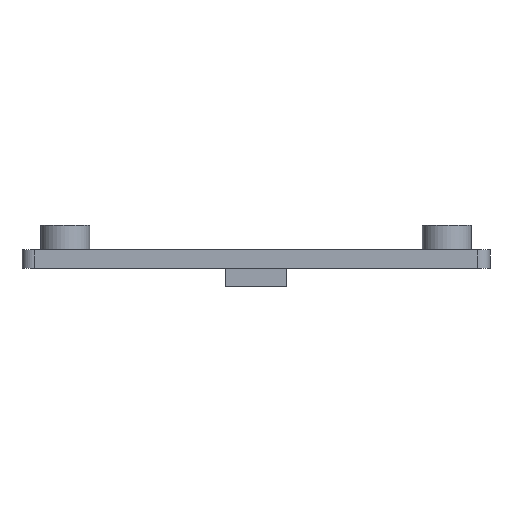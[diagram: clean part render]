
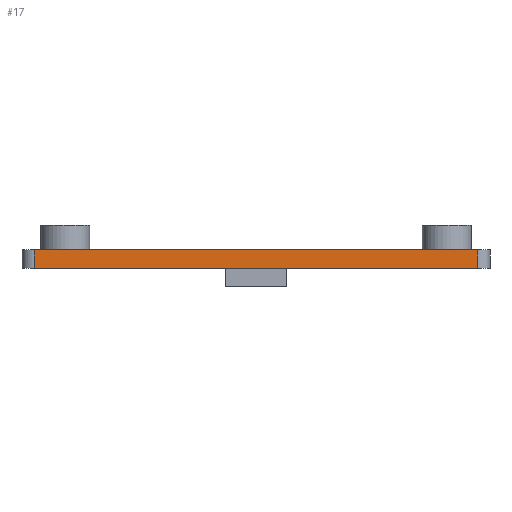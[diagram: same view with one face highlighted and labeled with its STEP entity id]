
A CAD part, left-side view. The second image highlights one B-rep face of the part: STEP entity #17.
In plain terms, the highlighted planar face has unit normal (-1, 0, 0).
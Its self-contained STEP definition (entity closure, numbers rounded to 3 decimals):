
#17 = ADVANCED_FACE('',(#18),#32,.F.);
#18 = FACE_BOUND('',#19,.F.);
#19 = EDGE_LOOP('',(#20,#55,#83,#111));
#20 = ORIENTED_EDGE('',*,*,#21,.F.);
#21 = EDGE_CURVE('',#22,#24,#26,.T.);
#22 = VERTEX_POINT('',#23);
#23 = CARTESIAN_POINT('',(-48.,-36.,3.));
#24 = VERTEX_POINT('',#25);
#25 = CARTESIAN_POINT('',(-48.,36.,3.));
#26 = SURFACE_CURVE('',#27,(#31,#43),.PCURVE_S1.);
#27 = LINE('',#28,#29);
#28 = CARTESIAN_POINT('',(-48.,-38.,3.));
#29 = VECTOR('',#30,1.);
#30 = DIRECTION('',(0.,1.,0.));
#31 = PCURVE('',#32,#37);
#32 = PLANE('',#33);
#33 = AXIS2_PLACEMENT_3D('',#34,#35,#36);
#34 = CARTESIAN_POINT('',(-48.,-38.,0.));
#35 = DIRECTION('',(1.,0.,0.));
#36 = DIRECTION('',(0.,0.,1.));
#37 = DEFINITIONAL_REPRESENTATION('',(#38),#42);
#38 = LINE('',#39,#40);
#39 = CARTESIAN_POINT('',(3.,0.));
#40 = VECTOR('',#41,1.);
#41 = DIRECTION('',(0.,-1.));
#42 = ( GEOMETRIC_REPRESENTATION_CONTEXT(2) 
PARAMETRIC_REPRESENTATION_CONTEXT() REPRESENTATION_CONTEXT('2D SPACE',''
  ) );
#43 = PCURVE('',#44,#49);
#44 = PLANE('',#45);
#45 = AXIS2_PLACEMENT_3D('',#46,#47,#48);
#46 = CARTESIAN_POINT('',(-48.,-38.,3.));
#47 = DIRECTION('',(0.,0.,1.));
#48 = DIRECTION('',(1.,0.,0.));
#49 = DEFINITIONAL_REPRESENTATION('',(#50),#54);
#50 = LINE('',#51,#52);
#51 = CARTESIAN_POINT('',(0.,0.));
#52 = VECTOR('',#53,1.);
#53 = DIRECTION('',(0.,1.));
#54 = ( GEOMETRIC_REPRESENTATION_CONTEXT(2) 
PARAMETRIC_REPRESENTATION_CONTEXT() REPRESENTATION_CONTEXT('2D SPACE',''
  ) );
#55 = ORIENTED_EDGE('',*,*,#56,.F.);
#56 = EDGE_CURVE('',#57,#22,#59,.T.);
#57 = VERTEX_POINT('',#58);
#58 = CARTESIAN_POINT('',(-48.,-36.,0.));
#59 = SURFACE_CURVE('',#60,(#64,#71),.PCURVE_S1.);
#60 = LINE('',#61,#62);
#61 = CARTESIAN_POINT('',(-48.,-36.,0.));
#62 = VECTOR('',#63,1.);
#63 = DIRECTION('',(0.,0.,1.));
#64 = PCURVE('',#32,#65);
#65 = DEFINITIONAL_REPRESENTATION('',(#66),#70);
#66 = LINE('',#67,#68);
#67 = CARTESIAN_POINT('',(0.,-2.));
#68 = VECTOR('',#69,1.);
#69 = DIRECTION('',(1.,0.));
#70 = ( GEOMETRIC_REPRESENTATION_CONTEXT(2) 
PARAMETRIC_REPRESENTATION_CONTEXT() REPRESENTATION_CONTEXT('2D SPACE',''
  ) );
#71 = PCURVE('',#72,#77);
#72 = CYLINDRICAL_SURFACE('',#73,2.);
#73 = AXIS2_PLACEMENT_3D('',#74,#75,#76);
#74 = CARTESIAN_POINT('',(-46.,-36.,0.));
#75 = DIRECTION('',(0.,0.,1.));
#76 = DIRECTION('',(-1.,-0.,0.));
#77 = DEFINITIONAL_REPRESENTATION('',(#78),#82);
#78 = LINE('',#79,#80);
#79 = CARTESIAN_POINT('',(0.,0.));
#80 = VECTOR('',#81,1.);
#81 = DIRECTION('',(0.,1.));
#82 = ( GEOMETRIC_REPRESENTATION_CONTEXT(2) 
PARAMETRIC_REPRESENTATION_CONTEXT() REPRESENTATION_CONTEXT('2D SPACE',''
  ) );
#83 = ORIENTED_EDGE('',*,*,#84,.T.);
#84 = EDGE_CURVE('',#57,#85,#87,.T.);
#85 = VERTEX_POINT('',#86);
#86 = CARTESIAN_POINT('',(-48.,36.,0.));
#87 = SURFACE_CURVE('',#88,(#92,#99),.PCURVE_S1.);
#88 = LINE('',#89,#90);
#89 = CARTESIAN_POINT('',(-48.,-38.,0.));
#90 = VECTOR('',#91,1.);
#91 = DIRECTION('',(0.,1.,0.));
#92 = PCURVE('',#32,#93);
#93 = DEFINITIONAL_REPRESENTATION('',(#94),#98);
#94 = LINE('',#95,#96);
#95 = CARTESIAN_POINT('',(0.,0.));
#96 = VECTOR('',#97,1.);
#97 = DIRECTION('',(0.,-1.));
#98 = ( GEOMETRIC_REPRESENTATION_CONTEXT(2) 
PARAMETRIC_REPRESENTATION_CONTEXT() REPRESENTATION_CONTEXT('2D SPACE',''
  ) );
#99 = PCURVE('',#100,#105);
#100 = PLANE('',#101);
#101 = AXIS2_PLACEMENT_3D('',#102,#103,#104);
#102 = CARTESIAN_POINT('',(-48.,-38.,0.));
#103 = DIRECTION('',(0.,0.,1.));
#104 = DIRECTION('',(1.,0.,0.));
#105 = DEFINITIONAL_REPRESENTATION('',(#106),#110);
#106 = LINE('',#107,#108);
#107 = CARTESIAN_POINT('',(0.,0.));
#108 = VECTOR('',#109,1.);
#109 = DIRECTION('',(0.,1.));
#110 = ( GEOMETRIC_REPRESENTATION_CONTEXT(2) 
PARAMETRIC_REPRESENTATION_CONTEXT() REPRESENTATION_CONTEXT('2D SPACE',''
  ) );
#111 = ORIENTED_EDGE('',*,*,#112,.T.);
#112 = EDGE_CURVE('',#85,#24,#113,.T.);
#113 = SURFACE_CURVE('',#114,(#118,#125),.PCURVE_S1.);
#114 = LINE('',#115,#116);
#115 = CARTESIAN_POINT('',(-48.,36.,0.));
#116 = VECTOR('',#117,1.);
#117 = DIRECTION('',(0.,0.,1.));
#118 = PCURVE('',#32,#119);
#119 = DEFINITIONAL_REPRESENTATION('',(#120),#124);
#120 = LINE('',#121,#122);
#121 = CARTESIAN_POINT('',(0.,-74.));
#122 = VECTOR('',#123,1.);
#123 = DIRECTION('',(1.,0.));
#124 = ( GEOMETRIC_REPRESENTATION_CONTEXT(2) 
PARAMETRIC_REPRESENTATION_CONTEXT() REPRESENTATION_CONTEXT('2D SPACE',''
  ) );
#125 = PCURVE('',#126,#131);
#126 = CYLINDRICAL_SURFACE('',#127,2.);
#127 = AXIS2_PLACEMENT_3D('',#128,#129,#130);
#128 = CARTESIAN_POINT('',(-46.,36.,0.));
#129 = DIRECTION('',(0.,0.,1.));
#130 = DIRECTION('',(-1.,-0.,0.));
#131 = DEFINITIONAL_REPRESENTATION('',(#132),#136);
#132 = LINE('',#133,#134);
#133 = CARTESIAN_POINT('',(-0.,0.));
#134 = VECTOR('',#135,1.);
#135 = DIRECTION('',(-0.,1.));
#136 = ( GEOMETRIC_REPRESENTATION_CONTEXT(2) 
PARAMETRIC_REPRESENTATION_CONTEXT() REPRESENTATION_CONTEXT('2D SPACE',''
  ) );
